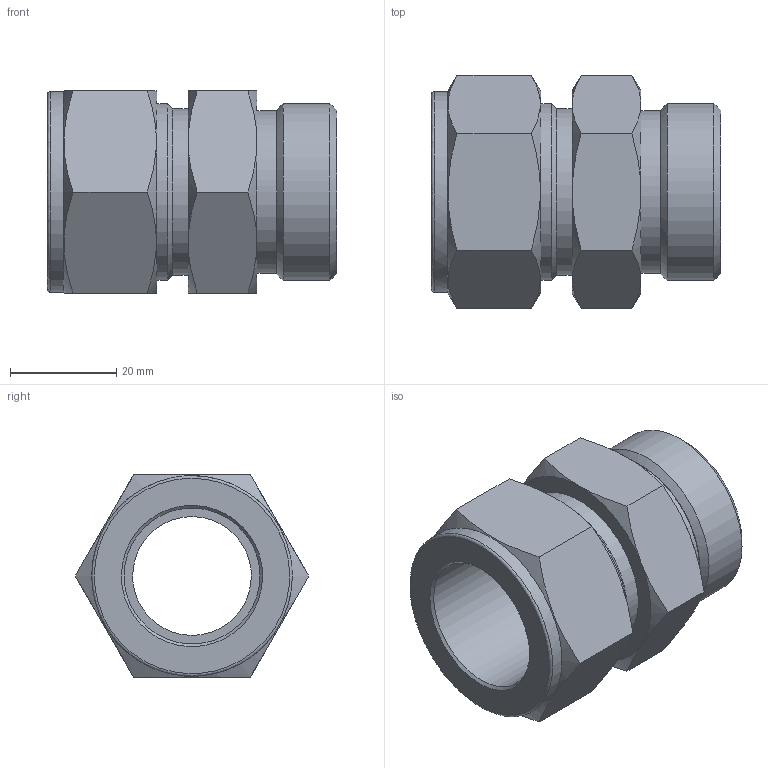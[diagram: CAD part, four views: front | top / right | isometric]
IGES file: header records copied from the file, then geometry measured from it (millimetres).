
Global section: file name: SSMC-16-16U; native system: Autodesk Inventor 2016; preprocessor: unknown; author: DESIGNPC2; date: 20160123.165142; units: millimetre
Bounding box: 54.46 x 43.99 x 38.1 mm (x, y, z)
Volume: 33539.5 mm3; surface area: 13100.5 mm2
Topology: 1 solids, 1 shells, 46 faces, 116 edges, 77 vertices
Faces by surface type: bspline 46
